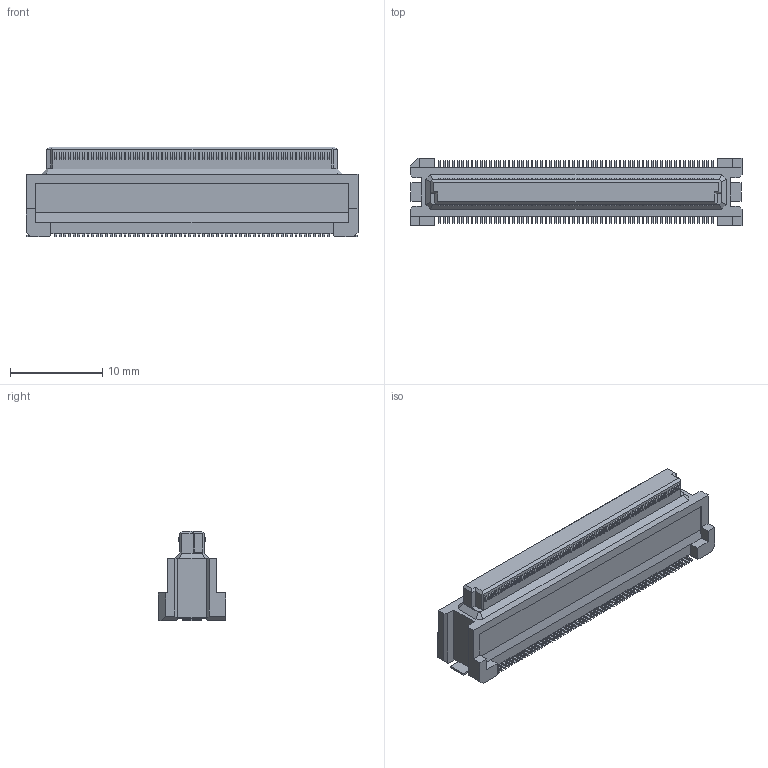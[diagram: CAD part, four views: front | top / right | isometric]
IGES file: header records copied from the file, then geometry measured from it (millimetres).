
Start section: Elysium IGES Interface
Global section: file name: C:\Users\1354\Desktop\DY10-120FS-1.igs; native system: Creo Elements/Direct Modeling 19.0F  14-Feb-2017; preprocessor: Creo Element/Direct IGES_3D V2.2; author: Unknown; organization: Unknown; date: 20171128.114212; units: millimetre
Bounding box: 35.9 x 7.3 x 9.73 mm (x, y, z)
Volume: 1413.2 mm3; surface area: 1376 mm2
Topology: 1 solids, 1 shells, 2788 faces, 7949 edges, 5286 vertices
Faces by surface type: bspline 2788
